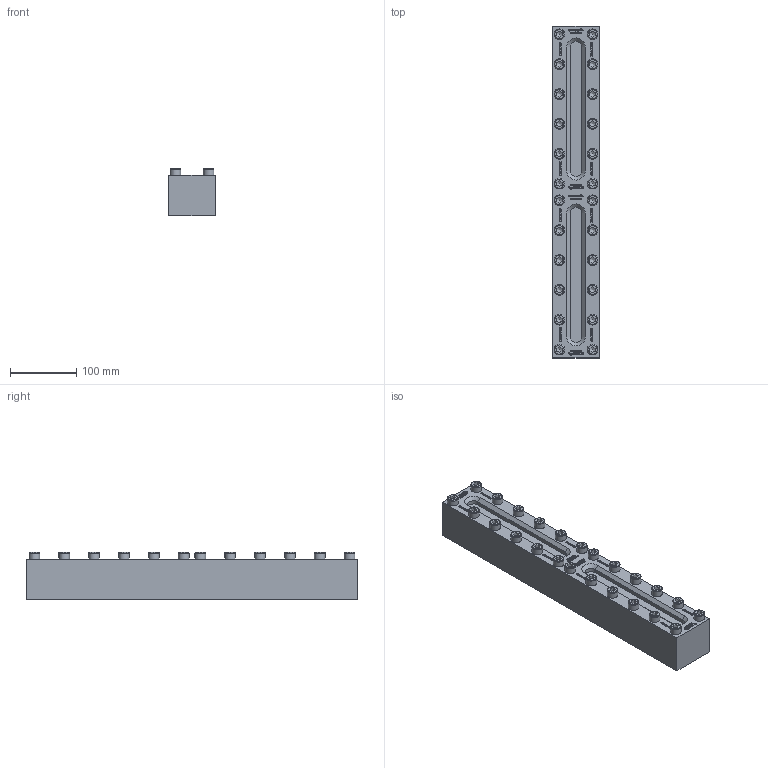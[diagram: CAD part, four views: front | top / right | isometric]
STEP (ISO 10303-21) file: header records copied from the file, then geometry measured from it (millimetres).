
FILE_DESCRIPTION(/* description */ (''),/* implementation_level */ '2;1');
FILE_NAME(/* name */ 'W:\Konstruktion_ACI\330\_Zeichnungen\STEP\ACI-330-500-40.stp',/* time_stamp */ '2022-03-01T17:18:15+01:00',/* author */ ('koslowksi'),/* organization */ (''),/* preprocessor_version */ 'ST-DEVELOPER v16.1',/* originating_system */ 'Autodesk Inventor 2016',/* authorisation */ '');
FILE_SCHEMA (('AUTOMOTIVE_DESIGN { 1 0 10303 214 3 1 1 }'));
Products named in the file (1): ACI-330-500-40.stp
Bounding box: 70 x 500 x 70.9 mm (x, y, z)
Volume: 1940125.3 mm3; surface area: 178936 mm2
Topology: 1 solids, 1 shells, 2466 faces, 6664 edges, 4432 vertices
Faces by surface type: plane 1778, bspline 604, cylinder 32, cone 28, torus 24
Full cylindrical faces by diameter (mm): 16 x24
Entity records: 80992 total; most frequent: CARTESIAN_POINT 21535, ORIENTED_EDGE 13088, DIRECTION 9010, EDGE_CURVE 6544, LINE 5100, VECTOR 5100, VERTEX_POINT 4384, EDGE_LOOP 2770
